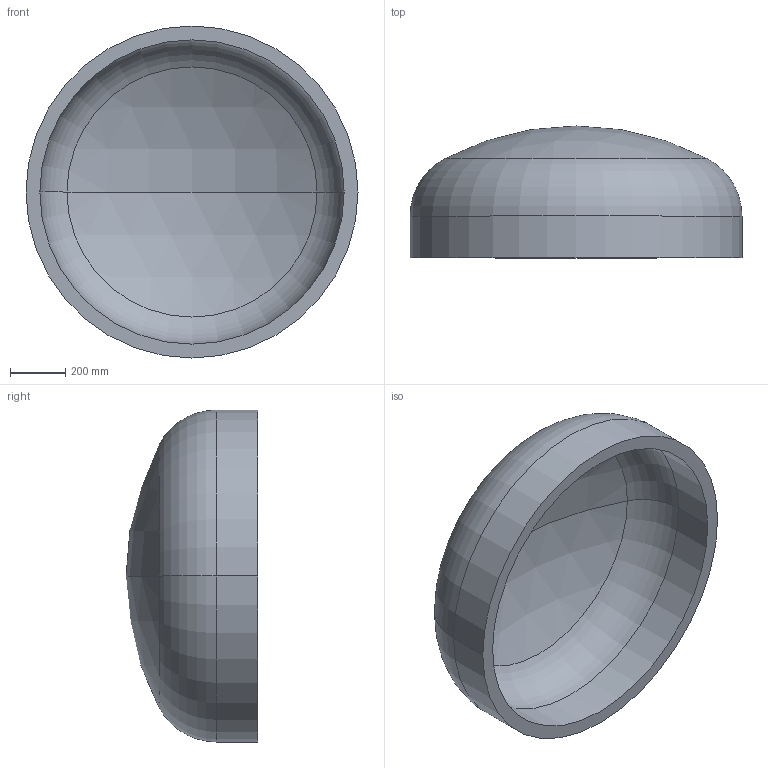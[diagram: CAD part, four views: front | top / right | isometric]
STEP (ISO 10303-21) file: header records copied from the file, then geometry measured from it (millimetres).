
FILE_DESCRIPTION (( 'STEP AP203' ), '1' );
FILE_NAME ('DIN 28013 Korbbogenform_-_Boden DIN 28013 - 1200 x 150 - I - s=50.step', '2016-07-01T09:31:03', ( '' ), ( '' ), 'SwSTEP 2.0', 'SolidWorks 2013', '' );
FILE_SCHEMA (( 'CONFIG_CONTROL_DESIGN' ));
Length unit declared in the file: millimetre
Products named in the file (1): DIN 28013 Korbbogenform_-_Boden DIN 28013 - 1200 x 150 - I - s=50
Bounding box: 1200 x 476.33 x 1200 mm (x, y, z)
Volume: 101321077.3 mm3; surface area: 4238719.7 mm2
Topology: 1 solids, 1 shells, 13 faces, 24 edges, 14 vertices
Faces by surface type: torus 4, cylinder 4, sphere 4, plane 1
Entity records: 407 total; most frequent: DIRECTION 72, CARTESIAN_POINT 52, ORIENTED_EDGE 48, AXIS2_PLACEMENT_3D 34, EDGE_CURVE 24, CIRCLE 20, VERTEX_POINT 14, EDGE_LOOP 14
